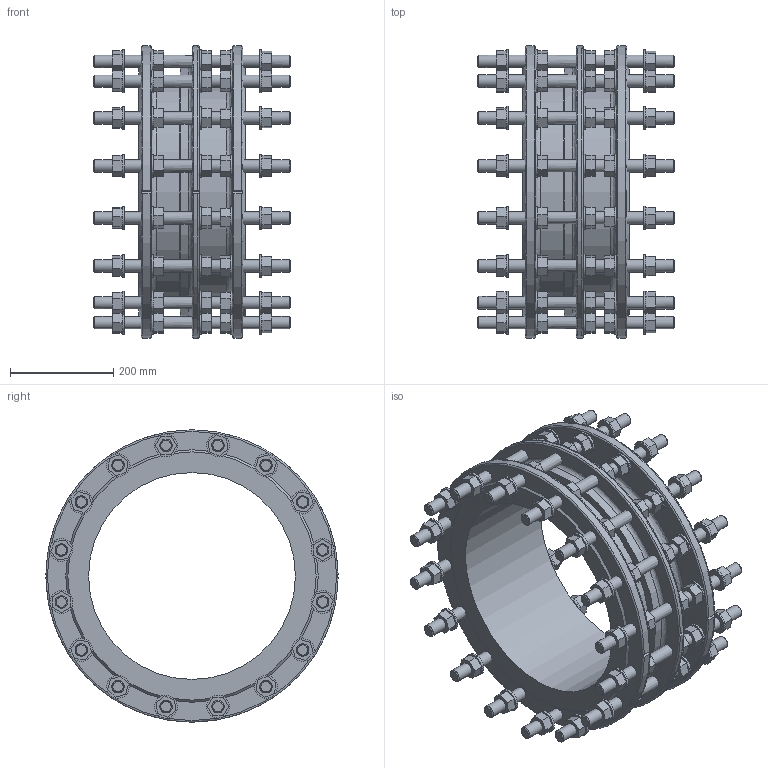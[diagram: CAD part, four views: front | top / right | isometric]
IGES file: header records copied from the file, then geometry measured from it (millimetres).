
Start section: SolidWorks IGES file using analytic representation for surfaces
Global section: file name: \\avksan2\techshare\PBM outline export from Enovia\O_265_911_DN400_0XXXXX01_L=205_REV01.igs; native system: SolidWorks 2022; preprocessor: SolidWorks 2022; author: pbm; date: 241212.090311; units: millimetre
Bounding box: 380 x 564.97 x 565 mm (x, y, z)
Surface area: 1712470.5 mm2 (no closed solid volume)
Topology: 0 solids, 0 shells, 1002 faces, 4524 edges, 4258 vertices
Faces by surface type: bspline 764, revolution 238
